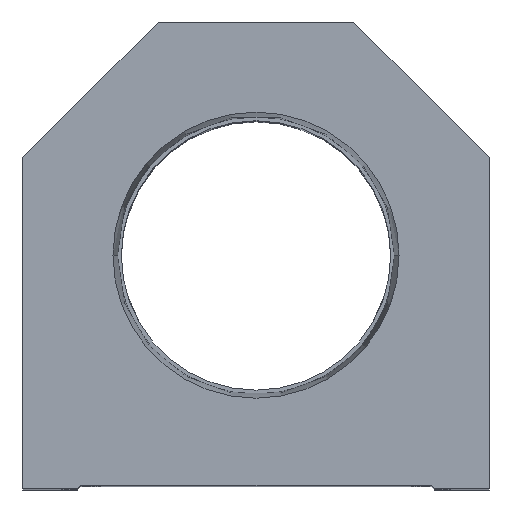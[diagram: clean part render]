
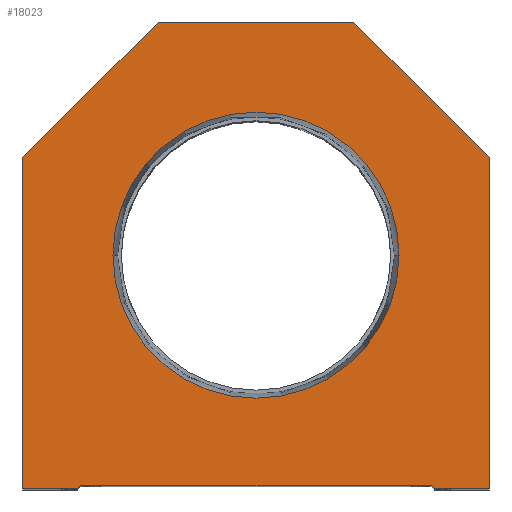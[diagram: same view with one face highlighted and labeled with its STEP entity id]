
A CAD part, top view. The second image highlights one B-rep face of the part: STEP entity #18023.
In plain terms, the highlighted planar face has unit normal (0, 0, 1).
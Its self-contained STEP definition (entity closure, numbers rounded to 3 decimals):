
#32 = VERTEX_POINT ( 'NONE', #12046 ) ;
#206 = VECTOR ( 'NONE', #18954, 1000. ) ;
#223 = VERTEX_POINT ( 'NONE', #18815 ) ;
#485 = CARTESIAN_POINT ( 'NONE',  ( 38.1, 54.1, 0. ) ) ;
#710 = CARTESIAN_POINT ( 'NONE',  ( -38.1, 0., 0. ) ) ;
#762 = LINE ( 'NONE', #5375, #2783 ) ;
#769 = CARTESIAN_POINT ( 'NONE',  ( -28.6, 0.5, 0. ) ) ;
#857 = DIRECTION ( 'NONE',  ( 1., 0., 0. ) ) ;
#972 = EDGE_CURVE ( 'NONE', #6615, #20223, #10173, .T. ) ;
#1713 = CIRCLE ( 'NONE', #15828, 23.374 ) ;
#1786 = LINE ( 'NONE', #15654, #12182 ) ;
#1835 = CARTESIAN_POINT ( 'NONE',  ( 0., 38.1, 0. ) ) ;
#1954 = VERTEX_POINT ( 'NONE', #9870 ) ;
#2262 = ORIENTED_EDGE ( 'NONE', *, *, #18106, .T. ) ;
#2511 = ORIENTED_EDGE ( 'NONE', *, *, #17495, .F. ) ;
#2634 = CARTESIAN_POINT ( 'NONE',  ( 38.1, 54.1, 0. ) ) ;
#2706 = FACE_BOUND ( 'NONE', #16835, .T. ) ;
#2783 = VECTOR ( 'NONE', #3852, 1000. ) ;
#3110 = CARTESIAN_POINT ( 'NONE',  ( -16., 76.2, 0. ) ) ;
#3214 = LINE ( 'NONE', #9294, #206 ) ;
#3518 = ORIENTED_EDGE ( 'NONE', *, *, #4033, .T. ) ;
#3852 = DIRECTION ( 'NONE',  ( 1., 0., 0. ) ) ;
#3987 = VERTEX_POINT ( 'NONE', #3110 ) ;
#4033 = EDGE_CURVE ( 'NONE', #20223, #3987, #3214, .T. ) ;
#4339 = DIRECTION ( 'NONE',  ( 0., 0., 1. ) ) ;
#4351 = VERTEX_POINT ( 'NONE', #20070 ) ;
#4403 = CARTESIAN_POINT ( 'NONE',  ( 16., 76.2, 0. ) ) ;
#4427 = VERTEX_POINT ( 'NONE', #769 ) ;
#4626 = DIRECTION ( 'NONE',  ( -0.707, -0.707, 0. ) ) ;
#5158 = VECTOR ( 'NONE', #857, 1000. ) ;
#5375 = CARTESIAN_POINT ( 'NONE',  ( 28.6, 0., 0. ) ) ;
#5666 = CARTESIAN_POINT ( 'NONE',  ( 23.374, 38.1, 0. ) ) ;
#5707 = ORIENTED_EDGE ( 'NONE', *, *, #972, .T. ) ;
#6250 = VECTOR ( 'NONE', #6342, 1000. ) ;
#6342 = DIRECTION ( 'NONE',  ( 0.707, 0.707, 0. ) ) ;
#6435 = DIRECTION ( 'NONE',  ( 0., 0., 1. ) ) ;
#6541 = EDGE_CURVE ( 'NONE', #32, #12436, #18694, .T. ) ;
#6615 = VERTEX_POINT ( 'NONE', #2634 ) ;
#6793 = LINE ( 'NONE', #13093, #10939 ) ;
#6871 = EDGE_CURVE ( 'NONE', #12436, #1954, #762, .T. ) ;
#6943 = ORIENTED_EDGE ( 'NONE', *, *, #9312, .T. ) ;
#7827 = DIRECTION ( 'NONE',  ( 1., 0., 0. ) ) ;
#8620 = VECTOR ( 'NONE', #7827, 1000. ) ;
#8936 = VERTEX_POINT ( 'NONE', #5666 ) ;
#9294 = CARTESIAN_POINT ( 'NONE',  ( 16., 76.2, 0. ) ) ;
#9312 = EDGE_CURVE ( 'NONE', #4351, #4427, #12748, .T. ) ;
#9870 = CARTESIAN_POINT ( 'NONE',  ( 38.1, 0., 0. ) ) ;
#9873 = LINE ( 'NONE', #710, #12023 ) ;
#9999 = ORIENTED_EDGE ( 'NONE', *, *, #14546, .T. ) ;
#10173 = LINE ( 'NONE', #485, #12430 ) ;
#10627 = DIRECTION ( 'NONE',  ( 1., 0., 0. ) ) ;
#10939 = VECTOR ( 'NONE', #17491, 1000. ) ;
#11251 = LINE ( 'NONE', #18843, #8620 ) ;
#11510 = DIRECTION ( 'NONE',  ( 0.707, -0.707, 0. ) ) ;
#11817 = DIRECTION ( 'NONE',  ( -0.707, 0.707, 0. ) ) ;
#12023 = VECTOR ( 'NONE', #19218, 1000. ) ;
#12046 = CARTESIAN_POINT ( 'NONE',  ( 28.6, 0.5, 0. ) ) ;
#12169 = PLANE ( 'NONE',  #16509 ) ;
#12172 = CARTESIAN_POINT ( 'NONE',  ( -28.6, 0.5, 0. ) ) ;
#12182 = VECTOR ( 'NONE', #4626, 1000. ) ;
#12332 = EDGE_CURVE ( 'NONE', #18056, #19388, #9873, .T. ) ;
#12430 = VECTOR ( 'NONE', #11817, 1000. ) ;
#12436 = VERTEX_POINT ( 'NONE', #14915 ) ;
#12748 = LINE ( 'NONE', #15707, #6250 ) ;
#12952 = DIRECTION ( 'NONE',  ( 0., 0., 1. ) ) ;
#13093 = CARTESIAN_POINT ( 'NONE',  ( 38.1, 0., 0. ) ) ;
#13261 = EDGE_CURVE ( 'NONE', #8936, #223, #15040, .T. ) ;
#14546 = EDGE_CURVE ( 'NONE', #4427, #32, #16886, .T. ) ;
#14722 = CARTESIAN_POINT ( 'NONE',  ( -38.1, 0., 0. ) ) ;
#14857 = ORIENTED_EDGE ( 'NONE', *, *, #13261, .F. ) ;
#14882 = ORIENTED_EDGE ( 'NONE', *, *, #19947, .T. ) ;
#14915 = CARTESIAN_POINT ( 'NONE',  ( 29.1, 0., 0. ) ) ;
#15040 = CIRCLE ( 'NONE', #16029, 23.374 ) ;
#15244 = FACE_OUTER_BOUND ( 'NONE', #16593, .T. ) ;
#15654 = CARTESIAN_POINT ( 'NONE',  ( -38.1, 54.1, 0. ) ) ;
#15707 = CARTESIAN_POINT ( 'NONE',  ( -14.55, 14.55, 0. ) ) ;
#15828 = AXIS2_PLACEMENT_3D ( 'NONE', #1835, #12952, #18889 ) ;
#15903 = ORIENTED_EDGE ( 'NONE', *, *, #6541, .T. ) ;
#16029 = AXIS2_PLACEMENT_3D ( 'NONE', #18888, #6435, #20081 ) ;
#16509 = AXIS2_PLACEMENT_3D ( 'NONE', #18430, #4339, #10627 ) ;
#16593 = EDGE_LOOP ( 'NONE', ( #16852, #6943, #9999, #15903, #18025, #14882, #5707, #3518, #2262, #18156 ) ) ;
#16835 = EDGE_LOOP ( 'NONE', ( #14857, #2511 ) ) ;
#16852 = ORIENTED_EDGE ( 'NONE', *, *, #19019, .T. ) ;
#16886 = LINE ( 'NONE', #12172, #5158 ) ;
#17491 = DIRECTION ( 'NONE',  ( 0., 1., 0. ) ) ;
#17495 = EDGE_CURVE ( 'NONE', #223, #8936, #1713, .T. ) ;
#17501 = CARTESIAN_POINT ( 'NONE',  ( -38.1, 54.1, 0. ) ) ;
#18023 = ADVANCED_FACE ( 'NONE', ( #2706, #15244 ), #12169, .T. ) ;
#18025 = ORIENTED_EDGE ( 'NONE', *, *, #6871, .T. ) ;
#18056 = VERTEX_POINT ( 'NONE', #17501 ) ;
#18106 = EDGE_CURVE ( 'NONE', #3987, #18056, #1786, .T. ) ;
#18156 = ORIENTED_EDGE ( 'NONE', *, *, #12332, .T. ) ;
#18197 = VECTOR ( 'NONE', #11510, 1000. ) ;
#18430 = CARTESIAN_POINT ( 'NONE',  ( 0., 0., 0. ) ) ;
#18694 = LINE ( 'NONE', #20295, #18197 ) ;
#18815 = CARTESIAN_POINT ( 'NONE',  ( -23.374, 38.1, 0. ) ) ;
#18843 = CARTESIAN_POINT ( 'NONE',  ( -28.6, 0., 0. ) ) ;
#18888 = CARTESIAN_POINT ( 'NONE',  ( 0., 38.1, 0. ) ) ;
#18889 = DIRECTION ( 'NONE',  ( 1., 0., 0. ) ) ;
#18954 = DIRECTION ( 'NONE',  ( -1., 0., 0. ) ) ;
#19019 = EDGE_CURVE ( 'NONE', #19388, #4351, #11251, .T. ) ;
#19218 = DIRECTION ( 'NONE',  ( 0., -1., 0. ) ) ;
#19388 = VERTEX_POINT ( 'NONE', #14722 ) ;
#19947 = EDGE_CURVE ( 'NONE', #1954, #6615, #6793, .T. ) ;
#20070 = CARTESIAN_POINT ( 'NONE',  ( -29.1, 0., 0. ) ) ;
#20081 = DIRECTION ( 'NONE',  ( 1., 0., 0. ) ) ;
#20223 = VERTEX_POINT ( 'NONE', #4403 ) ;
#20295 = CARTESIAN_POINT ( 'NONE',  ( 14.55, 14.55, 0. ) ) ;
